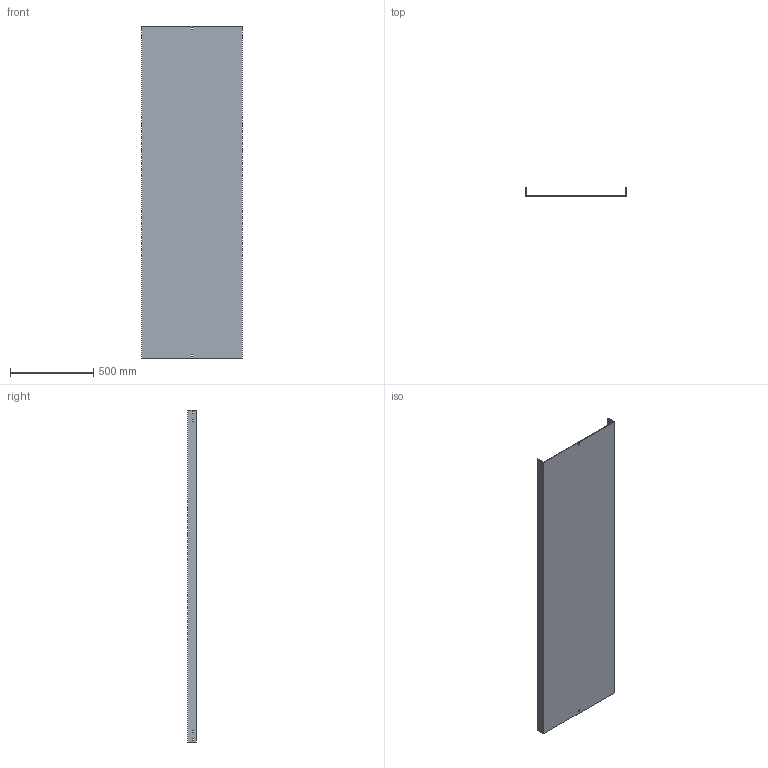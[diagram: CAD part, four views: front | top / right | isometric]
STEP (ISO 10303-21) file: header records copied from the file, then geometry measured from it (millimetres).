
FILE_DESCRIPTION (( 'STEP AP214' ), '1' );
FILE_NAME ('03F2B600.step', '2025-02-21T13:23:53', ( '' ), ( '' ), 'SwSTEP 2.0', 'SolidWorks 2023', '' );
FILE_SCHEMA (( 'AUTOMOTIVE_DESIGN' ));
Length unit declared in the file: millimetre
Products named in the file (1): 03F2B600
Bounding box: 604 x 52 x 2000 mm (x, y, z)
Volume: 4904630.5 mm3; surface area: 2822722 mm2
Topology: 1 solids, 1 shells, 50 faces, 144 edges, 96 vertices
Faces by surface type: plane 50
Entity records: 1671 total; most frequent: CARTESIAN_POINT 291, ORIENTED_EDGE 288, DIRECTION 246, EDGE_CURVE 144, LINE 144, VECTOR 144, VERTEX_POINT 96, EDGE_LOOP 70
